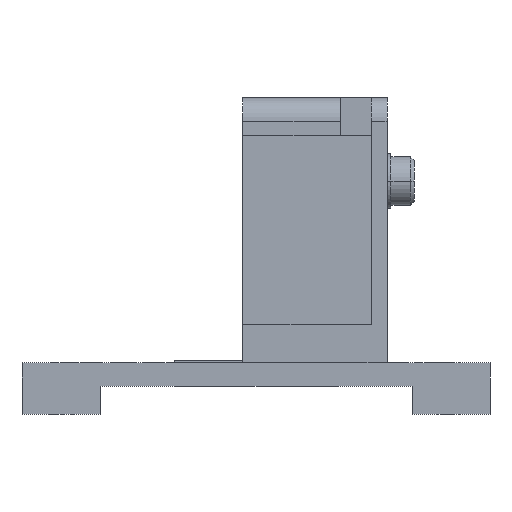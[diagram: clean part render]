
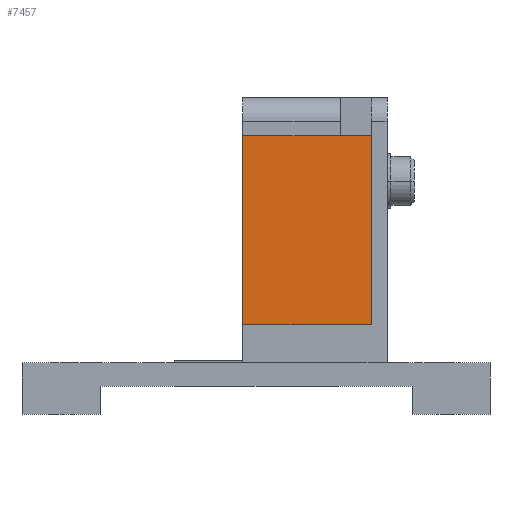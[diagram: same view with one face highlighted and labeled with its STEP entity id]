
A CAD part, front view. The second image highlights one B-rep face of the part: STEP entity #7457.
In plain terms, the highlighted planar face has unit normal (0, -1, 0).
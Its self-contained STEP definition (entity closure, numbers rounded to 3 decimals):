
#1765=DIRECTION('',(0.,0.,-1.));
#1766=VECTOR('',#1765,24.25);
#1767=CARTESIAN_POINT('',(14.8,6.,32.125));
#1768=LINE('',#1767,#1766);
#1785=DIRECTION('',(-1.,0.,0.));
#1786=VECTOR('',#1785,16.5);
#1787=CARTESIAN_POINT('',(14.8,6.,7.875));
#1788=LINE('',#1787,#1786);
#1789=DIRECTION('',(0.,0.,-1.));
#1790=VECTOR('',#1789,24.25);
#1791=CARTESIAN_POINT('',(-1.7,6.,32.125));
#1792=LINE('',#1791,#1790);
#1793=DIRECTION('',(1.,0.,0.));
#1794=VECTOR('',#1793,16.5);
#1795=CARTESIAN_POINT('',(-1.7,6.,32.125));
#1796=LINE('',#1795,#1794);
#4620=CARTESIAN_POINT('',(-1.7,6.,7.875));
#4621=VERTEX_POINT('',#4620);
#4622=CARTESIAN_POINT('',(-1.7,6.,32.125));
#4623=VERTEX_POINT('',#4622);
#4638=CARTESIAN_POINT('',(14.8,6.,32.125));
#4639=VERTEX_POINT('',#4638);
#4640=CARTESIAN_POINT('',(14.8,6.,7.875));
#4641=VERTEX_POINT('',#4640);
#7445=CARTESIAN_POINT('',(-1.7,6.,3.));
#7446=DIRECTION('',(0.,-1.,0.));
#7447=DIRECTION('',(1.,0.,0.));
#7448=AXIS2_PLACEMENT_3D('',#7445,#7446,#7447);
#7449=PLANE('',#7448);
#7451=ORIENTED_EDGE('',*,*,#7450,.T.);
#7452=ORIENTED_EDGE('',*,*,#7421,.T.);
#7453=ORIENTED_EDGE('',*,*,#7440,.T.);
#7454=ORIENTED_EDGE('',*,*,#7306,.F.);
#7455=EDGE_LOOP('',(#7451,#7452,#7453,#7454));
#7456=FACE_OUTER_BOUND('',#7455,.F.);
#7457=ADVANCED_FACE('',(#7456),#7449,.T.);
#7306=EDGE_CURVE('',#4623,#4621,#1792,.T.);
#7421=EDGE_CURVE('',#4639,#4641,#1768,.T.);
#7440=EDGE_CURVE('',#4641,#4621,#1788,.T.);
#7450=EDGE_CURVE('',#4623,#4639,#1796,.T.);
